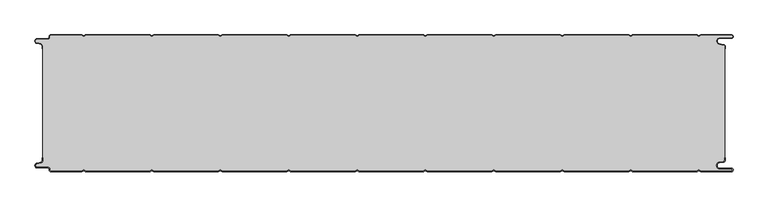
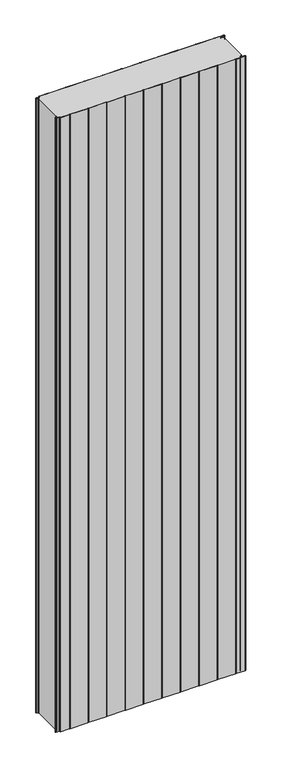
"""IFC4 building model written with IfcOpenShell, lengths in millimetres: plate geometry, PMH_Curtain-Panel_Perfil-Frigorífico : ACH_PMH_Panel-Acústico-Sectorización_200M."""

from ifc_helpers import new_model, si_unit, point, frame_2d, origin, origin_with_axes, place, context, project, spatial, polyline, circle_curve, trimmed, segment, composite_curve, outline, extrude, source, transform, mapped, element, save


def plate_85a3d73c(model_context):
    return source(origin(), model_context, "Body", "SweptSolid", [
        extrude(outline(composite_curve([segment(polyline([(-500.0, 15.878557), (-500.0, 20.0), (-499.2, 20.0), (-499.2, 15.878557)]), True, "CONTINUOUS"), segment(trimmed(circle_curve(frame_2d((-502.0, 15.878557)), 2.8), [point((-499.2, 15.878557))], [point((-501.370137, 13.1503208))], False, "CARTESIAN"), True, "CONTINUOUS"), segment(polyline([(-501.370137, 13.1503208), (-507.529863, 11.728236)]), True, "CONTINUOUS"), segment(trimmed(circle_curve(frame_2d((-506.9, 9.0)), 2.8), [point((-507.529863, 11.728236))], [point((-506.9, 6.2))], True, "CARTESIAN"), True, "CONTINUOUS"), segment(polyline([(-506.9, 6.2), (-491.4, 6.2)]), True, "CONTINUOUS"), segment(trimmed(circle_curve(frame_2d((-491.4, 3.4)), 2.8), [point((-491.4, 6.2))], [point((-488.6, 3.4))], False, "CARTESIAN"), True, "CONTINUOUS"), segment(polyline([(-488.6, 3.4), (-488.6, 2.0)]), True, "CONTINUOUS"), segment(trimmed(circle_curve(frame_2d((-487.4, 2.0)), 1.2), [point((-488.6, 2.0))], [point((-487.4, 0.8))], True, "CARTESIAN"), True, "CONTINUOUS"), segment(polyline([(-487.4, 0.8), (-442.3143588, 0.8), (-439.4, 2.482606), (-436.4856412, 0.8), (-342.3143588, 0.8), (-339.4, 2.482606), (-336.4856412, 0.8), (-242.3143588, 0.8), (-239.4, 2.482606), (-236.4856412, 0.8), (-142.3143588, 0.8), (-139.4, 2.482606), (-136.4856412, 0.8), (-42.3143588, 0.8), (-39.4, 2.482606), (-36.4856412, 0.8), (57.6856412, 0.8), (60.6, 2.482606), (63.5143588, 0.8), (157.6856412, 0.8), (160.6, 2.482606), (163.5143588, 0.8), (257.6856412, 0.8), (260.6, 2.482606), (263.5143588, 0.8), (357.6856412, 0.8), (360.6, 2.482606), (363.5143588, 0.8), (457.6856412, 0.8), (460.6, 2.482606), (463.5143588, 0.8), (508.1, 0.8)]), True, "CONTINUOUS"), segment(trimmed(circle_curve(frame_2d((508.1, 2.5)), 1.7), [point((508.1, 0.8))], [point((508.1, 4.2))], True, "CARTESIAN"), True, "CONTINUOUS"), segment(polyline([(508.1, 4.2), (491.1, 4.2)]), True, "CONTINUOUS"), segment(trimmed(circle_curve(frame_2d((491.1, 9.0)), 4.8), [point((491.1, 4.2))], [point((490.2664884, 13.7270771))], False, "CARTESIAN"), True, "CONTINUOUS"), segment(polyline([(490.2664884, 13.7270771), (496.7125669, 14.8636953)]), True, "CONTINUOUS"), segment(trimmed(circle_curve(frame_2d((496.4, 16.6363492)), 1.8), [point((496.7125669, 14.8636953))], [point((498.2, 16.6363492))], True, "CARTESIAN"), True, "CONTINUOUS"), segment(polyline([(498.2, 16.6363492), (498.2, 20.0), (499.0, 20.0), (499.0, 16.6363492)]), True, "CONTINUOUS"), segment(trimmed(circle_curve(frame_2d((496.4, 16.6363492)), 2.6), [point((499.0, 16.6363492))], [point((496.8514855, 14.0758491))], False, "CARTESIAN"), True, "CONTINUOUS"), segment(polyline([(496.8514855, 14.0758491), (490.405407, 12.939231)]), True, "CONTINUOUS"), segment(trimmed(circle_curve(frame_2d((491.1, 9.0)), 4.0), [point((490.405407, 12.939231))], [point((491.1, 5.0))], True, "CARTESIAN"), True, "CONTINUOUS"), segment(polyline([(491.1, 5.0), (508.1, 5.0)]), True, "CONTINUOUS"), segment(trimmed(circle_curve(frame_2d((508.1, 2.5)), 2.5), [point((508.1, 5.0))], [point((508.1, 0.0))], False, "CARTESIAN"), True, "CONTINUOUS"), segment(polyline([(508.1, 0.0), (463.2999995, 0.0), (460.6, 1.5588455), (457.9000005, 0.0), (363.2999995, 0.0), (360.6, 1.5588455), (357.9000005, 0.0), (263.2999995, 0.0), (260.6, 1.5588455), (257.9000005, 0.0), (163.2999995, 0.0), (160.6, 1.5588455), (157.9000005, 0.0), (63.2999995, 0.0), (60.6, 1.5588455), (57.9000005, 0.0), (-36.7000005, 0.0), (-39.4, 1.5588455), (-42.0999995, 0.0), (-136.7000005, 0.0), (-139.4, 1.5588455), (-142.0999995, 0.0), (-236.7000005, 0.0), (-239.4, 1.5588455), (-242.0999995, 0.0), (-336.7000005, 0.0), (-339.4, 1.5588455), (-342.0999995, 0.0), (-436.7000005, 0.0), (-439.4, 1.5588455), (-442.0999995, 0.0), (-487.4, 0.0)]), True, "CONTINUOUS"), segment(trimmed(circle_curve(frame_2d((-487.4, 2.0)), 2.0), [point((-487.4, 0.0))], [point((-489.4, 2.0))], False, "CARTESIAN"), True, "CONTINUOUS"), segment(polyline([(-489.4, 2.0), (-489.4, 3.4)]), True, "CONTINUOUS"), segment(trimmed(circle_curve(frame_2d((-491.4, 3.4)), 2.0), [point((-489.4, 3.4))], [point((-491.4, 5.4))], True, "CARTESIAN"), True, "CONTINUOUS"), segment(polyline([(-491.4, 5.4), (-506.9, 5.4)]), True, "CONTINUOUS"), segment(trimmed(circle_curve(frame_2d((-506.9, 9.0)), 3.6), [point((-506.9, 5.4))], [point((-507.7098239, 12.5077322))], False, "CARTESIAN"), True, "CONTINUOUS"), segment(polyline([(-507.7098239, 12.5077322), (-501.5500979, 13.929817)]), True, "CONTINUOUS"), segment(trimmed(circle_curve(frame_2d((-502.0, 15.878557)), 2.0), [point((-501.5500979, 13.929817))], [point((-500.0, 15.878557))], True, "CARTESIAN"), True, "CONTINUOUS")], self_intersect=False)), origin_with_axes(), (0.0, 0.0, 1.0), 3500.0),
        extrude(outline(composite_curve([segment(trimmed(circle_curve(frame_2d((-502.0, 184.1214426)), 2.8), [point((-499.2, 184.1214426))], [point((-501.370137, 186.8496788))], True, "CARTESIAN"), True, "CONTINUOUS"), segment(polyline([(-501.370137, 186.8496788), (-507.5298631, 188.2717638)]), True, "CONTINUOUS"), segment(trimmed(circle_curve(frame_2d((-506.9, 191.0)), 2.8), [point((-507.5298631, 188.2717638))], [point((-506.9, 193.8))], False, "CARTESIAN"), True, "CONTINUOUS"), segment(polyline([(-506.9, 193.8), (-491.4000001, 193.8)]), True, "CONTINUOUS"), segment(trimmed(circle_curve(frame_2d((-491.4000001, 196.6)), 2.8), [point((-491.4000001, 193.8))], [point((-488.6000001, 196.6))], True, "CARTESIAN"), True, "CONTINUOUS"), segment(polyline([(-488.6000001, 196.6), (-488.6000001, 198.0)]), True, "CONTINUOUS"), segment(trimmed(circle_curve(frame_2d((-487.4000001, 198.0)), 1.2), [point((-488.6000001, 198.0))], [point((-487.4000001, 199.2))], False, "CARTESIAN"), True, "CONTINUOUS"), segment(polyline([(-487.4000001, 199.2), (-442.3143589, 199.2), (-439.4000001, 197.517394), (-436.4856412, 199.2), (-342.3143589, 199.2), (-339.4000001, 197.517394), (-336.4856412, 199.2), (-242.3143589, 199.2), (-239.4000001, 197.517394), (-236.4856412, 199.2), (-142.3143589, 199.2), (-139.4000001, 197.517394), (-136.4856412, 199.2), (-42.3143589, 199.2), (-39.4000001, 197.517394), (-36.4856412, 199.2), (57.6856411, 199.2), (60.5999999, 197.517394), (63.5143588, 199.2), (157.6856411, 199.2), (160.5999999, 197.517394), (163.5143588, 199.2), (257.6856411, 199.2), (260.5999999, 197.517394), (263.5143588, 199.2), (357.6856411, 199.2), (360.5999999, 197.517394), (363.5143588, 199.2), (457.6856411, 199.2), (460.5999999, 197.517394), (463.5143588, 199.2), (508.0999999, 199.2)]), True, "CONTINUOUS"), segment(trimmed(circle_curve(frame_2d((508.0999999, 197.5)), 1.7), [point((508.0999999, 199.2))], [point((508.0999999, 195.8))], False, "CARTESIAN"), True, "CONTINUOUS"), segment(polyline([(508.0999999, 195.8), (491.0999999, 195.8)]), True, "CONTINUOUS"), segment(trimmed(circle_curve(frame_2d((491.0999999, 191.0)), 4.8), [point((491.0999999, 195.8))], [point((490.2664883, 186.2729229))], True, "CARTESIAN"), True, "CONTINUOUS"), segment(polyline([(490.2664883, 186.2729229), (496.7125668, 185.1363047)]), True, "CONTINUOUS"), segment(trimmed(circle_curve(frame_2d((496.3999999, 183.3636508)), 1.8), [point((496.7125668, 185.1363047))], [point((498.1999999, 183.3636508))], False, "CARTESIAN"), True, "CONTINUOUS"), segment(polyline([(498.1999999, 183.3636508), (498.1999999, 16.6363492)]), True, "CONTINUOUS"), segment(trimmed(circle_curve(frame_2d((496.3999999, 16.6363492)), 1.8), [point((498.1999999, 16.6363492))], [point((496.7125668, 14.8636953))], False, "CARTESIAN"), True, "CONTINUOUS"), segment(polyline([(496.7125668, 14.8636953), (490.2664883, 13.7270771)]), True, "CONTINUOUS"), segment(trimmed(circle_curve(frame_2d((491.0999999, 9.0)), 4.8), [point((490.2664883, 13.7270771))], [point((491.0999999, 4.2))], True, "CARTESIAN"), True, "CONTINUOUS"), segment(polyline([(491.0999999, 4.2), (508.0999999, 4.2)]), True, "CONTINUOUS"), segment(trimmed(circle_curve(frame_2d((508.0999999, 2.5)), 1.7), [point((508.0999999, 4.2))], [point((508.0999999, 0.8))], False, "CARTESIAN"), True, "CONTINUOUS"), segment(polyline([(508.0999999, 0.8), (463.5143588, 0.8), (460.5999999, 2.482606), (457.6856411, 0.8), (363.5143588, 0.8), (360.5999999, 2.482606), (357.6856411, 0.8), (263.5143588, 0.8), (260.5999999, 2.482606), (257.6856411, 0.8), (163.5143588, 0.8), (160.5999999, 2.482606), (157.6856411, 0.8), (63.5143588, 0.8), (60.5999999, 2.482606), (57.6856411, 0.8), (-36.4856412, 0.8), (-39.4000001, 2.482606), (-42.3143589, 0.8), (-136.4856412, 0.8), (-139.4000001, 2.482606), (-142.3143589, 0.8), (-236.4856412, 0.8), (-239.4000001, 2.482606), (-242.3143589, 0.8), (-336.4856412, 0.8), (-339.4000001, 2.482606), (-342.3143589, 0.8), (-436.4856412, 0.8), (-439.4000001, 2.482606), (-442.3143589, 0.8), (-487.4000001, 0.8)]), True, "CONTINUOUS"), segment(trimmed(circle_curve(frame_2d((-487.4000001, 2.0)), 1.2), [point((-487.4000001, 0.8))], [point((-488.6000001, 2.0))], False, "CARTESIAN"), True, "CONTINUOUS"), segment(polyline([(-488.6000001, 2.0), (-488.6000001, 3.4)]), True, "CONTINUOUS"), segment(trimmed(circle_curve(frame_2d((-491.4000001, 3.4)), 2.8), [point((-488.6000001, 3.4))], [point((-491.4000001, 6.2))], True, "CARTESIAN"), True, "CONTINUOUS"), segment(polyline([(-491.4000001, 6.2), (-506.9, 6.2)]), True, "CONTINUOUS"), segment(trimmed(circle_curve(frame_2d((-506.9, 9.0)), 2.8), [point((-506.9, 6.2))], [point((-507.5298631, 11.7282362))], False, "CARTESIAN"), True, "CONTINUOUS"), segment(polyline([(-507.5298631, 11.7282362), (-501.370137, 13.1503212)]), True, "CONTINUOUS"), segment(trimmed(circle_curve(frame_2d((-502.0, 15.8785573)), 2.8), [point((-501.370137, 13.1503212))], [point((-499.2, 15.8785573))], True, "CARTESIAN"), True, "CONTINUOUS"), segment(polyline([(-499.2, 15.8785573), (-499.2, 184.1214426)]), True, "CONTINUOUS")], self_intersect=False)), origin_with_axes(), (0.0, 0.0, 1.0), 3500.0),
        extrude(outline(composite_curve([segment(trimmed(circle_curve(frame_2d((-502.0, 184.121443)), 2.0), [point((-500.0, 184.121443))], [point((-501.5500978, 186.0701831))], True, "CARTESIAN"), True, "CONTINUOUS"), segment(polyline([(-501.5500978, 186.0701831), (-507.7098239, 187.492268)]), True, "CONTINUOUS"), segment(trimmed(circle_curve(frame_2d((-506.9, 191.0)), 3.6), [point((-507.7098239, 187.492268))], [point((-506.9, 194.6))], False, "CARTESIAN"), True, "CONTINUOUS"), segment(polyline([(-506.9, 194.6), (-491.4, 194.6)]), True, "CONTINUOUS"), segment(trimmed(circle_curve(frame_2d((-491.4, 196.6)), 2.0), [point((-491.4, 194.6))], [point((-489.4, 196.6))], True, "CARTESIAN"), True, "CONTINUOUS"), segment(polyline([(-489.4, 196.6), (-489.4, 198.0)]), True, "CONTINUOUS"), segment(trimmed(circle_curve(frame_2d((-487.4, 198.0)), 2.0), [point((-489.4, 198.0))], [point((-487.4, 200.0))], False, "CARTESIAN"), True, "CONTINUOUS"), segment(polyline([(-487.4, 200.0), (-442.0999995, 200.0), (-439.4, 198.4411545), (-436.7000005, 200.0), (-342.0999995, 200.0), (-339.4, 198.4411545), (-336.7000005, 200.0), (-242.0999995, 200.0), (-239.4, 198.4411545), (-236.7000005, 200.0), (-142.0999995, 200.0), (-139.4, 198.4411545), (-136.7000005, 200.0), (-42.0999995, 200.0), (-39.4, 198.4411545), (-36.7000005, 200.0), (57.9000005, 200.0), (60.6, 198.4411545), (63.2999995, 200.0), (157.9000005, 200.0), (160.6, 198.4411545), (163.2999995, 200.0), (257.9000005, 200.0), (260.6, 198.4411545), (263.2999995, 200.0), (357.9000005, 200.0), (360.6, 198.4411545), (363.2999995, 200.0), (457.9000005, 200.0), (460.6, 198.4411545), (463.2999995, 200.0), (508.1, 200.0)]), True, "CONTINUOUS"), segment(trimmed(circle_curve(frame_2d((508.1, 197.5)), 2.5), [point((508.1, 200.0))], [point((508.1, 195.0))], False, "CARTESIAN"), True, "CONTINUOUS"), segment(polyline([(508.1, 195.0), (491.1, 195.0)]), True, "CONTINUOUS"), segment(trimmed(circle_curve(frame_2d((491.1, 191.0)), 4.0), [point((491.1, 195.0))], [point((490.405407, 187.060769))], True, "CARTESIAN"), True, "CONTINUOUS"), segment(polyline([(490.405407, 187.060769), (496.8514855, 185.9241509)]), True, "CONTINUOUS"), segment(trimmed(circle_curve(frame_2d((496.4, 183.3636508)), 2.6), [point((496.8514855, 185.9241509))], [point((499.0, 183.3636508))], False, "CARTESIAN"), True, "CONTINUOUS"), segment(polyline([(499.0, 183.3636508), (499.0, 180.0), (498.2, 180.0), (498.2, 183.3636508)]), True, "CONTINUOUS"), segment(trimmed(circle_curve(frame_2d((496.4, 183.3636508)), 1.8), [point((498.2, 183.3636508))], [point((496.7125669, 185.1363047))], True, "CARTESIAN"), True, "CONTINUOUS"), segment(polyline([(496.7125669, 185.1363047), (490.2664884, 186.2729228)]), True, "CONTINUOUS"), segment(trimmed(circle_curve(frame_2d((491.1, 191.0)), 4.8), [point((490.2664884, 186.2729228))], [point((491.1, 195.8))], False, "CARTESIAN"), True, "CONTINUOUS"), segment(polyline([(491.1, 195.8), (508.1, 195.8)]), True, "CONTINUOUS"), segment(trimmed(circle_curve(frame_2d((508.1, 197.5)), 1.7), [point((508.1, 195.8))], [point((508.1, 199.2))], True, "CARTESIAN"), True, "CONTINUOUS"), segment(polyline([(508.1, 199.2), (463.5143588, 199.2), (460.6, 197.517394), (457.6856412, 199.2), (363.5143588, 199.2), (360.6, 197.517394), (357.6856412, 199.2), (263.5143588, 199.2), (260.6, 197.517394), (257.6856412, 199.2), (163.5143588, 199.2), (160.6, 197.517394), (157.6856412, 199.2), (63.5143588, 199.2), (60.6, 197.517394), (57.6856412, 199.2), (-36.4856412, 199.2), (-39.4, 197.517394), (-42.3143588, 199.2), (-136.4856412, 199.2), (-139.4, 197.517394), (-142.3143588, 199.2), (-236.4856412, 199.2), (-239.4, 197.517394), (-242.3143588, 199.2), (-336.4856412, 199.2), (-339.4, 197.517394), (-342.3143588, 199.2), (-436.4856412, 199.2), (-439.4, 197.517394), (-442.3143588, 199.2), (-487.4, 199.2)]), True, "CONTINUOUS"), segment(trimmed(circle_curve(frame_2d((-487.4, 198.0)), 1.2), [point((-487.4, 199.2))], [point((-488.6, 198.0))], True, "CARTESIAN"), True, "CONTINUOUS"), segment(polyline([(-488.6, 198.0), (-488.6, 196.6)]), True, "CONTINUOUS"), segment(trimmed(circle_curve(frame_2d((-491.4, 196.6)), 2.8), [point((-488.6, 196.6))], [point((-491.4, 193.8))], False, "CARTESIAN"), True, "CONTINUOUS"), segment(polyline([(-491.4, 193.8), (-506.9, 193.8)]), True, "CONTINUOUS"), segment(trimmed(circle_curve(frame_2d((-506.9, 191.0)), 2.8), [point((-506.9, 193.8))], [point((-507.529863, 188.2717638))], True, "CARTESIAN"), True, "CONTINUOUS"), segment(polyline([(-507.529863, 188.2717638), (-501.370137, 186.849679)]), True, "CONTINUOUS"), segment(trimmed(circle_curve(frame_2d((-502.0, 184.121443)), 2.8), [point((-501.370137, 186.849679))], [point((-499.2, 184.121443))], False, "CARTESIAN"), True, "CONTINUOUS"), segment(polyline([(-499.2, 184.121443), (-499.2, 180.0), (-500.0, 180.0), (-500.0, 184.121443)]), True, "CONTINUOUS")], self_intersect=False)), origin_with_axes(), (0.0, 0.0, 1.0), 3500.0),
    ])


if __name__ == "__main__":
    model = new_model("IFC4")
    model_context = context("Model", 3, world=origin())
    ifc_project = project(units=[si_unit("LENGTHUNIT", "METRE", prefix="MILLI")], contexts=[model_context])
    site = spatial("IfcSite", under=ifc_project)
    building = spatial("IfcBuilding", under=site)
    placement = place(None, origin())
    plate_shape = plate_85a3d73c(model_context)
    element("IfcPlate", 1, ObjectType="PMH_Curtain-Panel_Perfil-Frigorífico : ACH_PMH_Panel-Acústico-Sectorización_200M", at=placement, inside=building, context=model_context, shape_type="MappedRepresentation", body=[
        mapped(plate_shape, transform((0.0, 0.0, 0.0), x_axis=(1.0, 0.0, 0.0), y_axis=(0.0, 1.0, 0.0), z_axis=(0.0, 0.0, 1.0))),
    ])
    save(model, "model.ifc")
